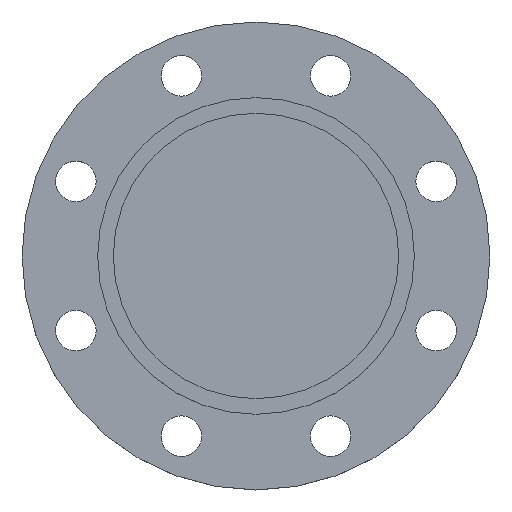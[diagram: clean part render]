
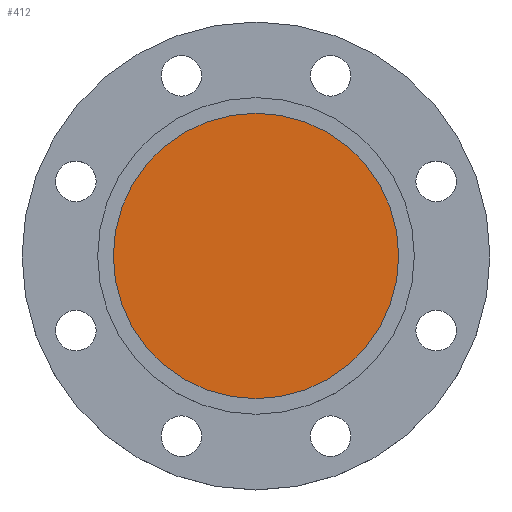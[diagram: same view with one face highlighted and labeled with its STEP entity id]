
A CAD part, top view. The second image highlights one B-rep face of the part: STEP entity #412.
In plain terms, the highlighted planar face has unit normal (0, 0, 1).
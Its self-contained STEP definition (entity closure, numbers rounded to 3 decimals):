
#43 = AXIS2_PLACEMENT_3D ( 'NONE', #686, #685, #684 ) ;
#144 = CARTESIAN_POINT ( 'NONE',  ( 91.5, 0., -5. ) ) ;
#174 = EDGE_CURVE ( 'NONE', #1078, #924, #899, .T. ) ;
#255 = CARTESIAN_POINT ( 'NONE',  ( -91.5, 0., -5. ) ) ;
#412 = ADVANCED_FACE ( 'NONE', ( #688 ), #687, .T. ) ;
#436 = DIRECTION ( 'NONE',  ( -1., 0., 0. ) ) ;
#437 = DIRECTION ( 'NONE',  ( 0., 0., -1. ) ) ;
#438 = CARTESIAN_POINT ( 'NONE',  ( 0., 0., -5. ) ) ;
#554 = EDGE_CURVE ( 'NONE', #924, #1078, #727, .T. ) ;
#589 = EDGE_LOOP ( 'NONE', ( #1038, #603 ) ) ;
#603 = ORIENTED_EDGE ( 'NONE', *, *, #174, .F. ) ;
#684 = DIRECTION ( 'NONE',  ( 1., 0., 0. ) ) ;
#685 = DIRECTION ( 'NONE',  ( 0., 0., 1. ) ) ;
#686 = CARTESIAN_POINT ( 'NONE',  ( 91.5, 0., -5. ) ) ;
#687 = PLANE ( 'NONE',  #43 ) ;
#688 = FACE_OUTER_BOUND ( 'NONE', #589, .T. ) ;
#724 = AXIS2_PLACEMENT_3D ( 'NONE', #438, #437, #436 ) ;
#727 = CIRCLE ( 'NONE', #724, 91.5 ) ;
#899 = CIRCLE ( 'NONE', #918, 91.5 ) ;
#918 = AXIS2_PLACEMENT_3D ( 'NONE', #993, #968, #956 ) ;
#924 = VERTEX_POINT ( 'NONE', #255 ) ;
#956 = DIRECTION ( 'NONE',  ( -1., 0., 0. ) ) ;
#968 = DIRECTION ( 'NONE',  ( 0., 0., -1. ) ) ;
#993 = CARTESIAN_POINT ( 'NONE',  ( 0., 0., -5. ) ) ;
#1038 = ORIENTED_EDGE ( 'NONE', *, *, #554, .F. ) ;
#1078 = VERTEX_POINT ( 'NONE', #144 ) ;
